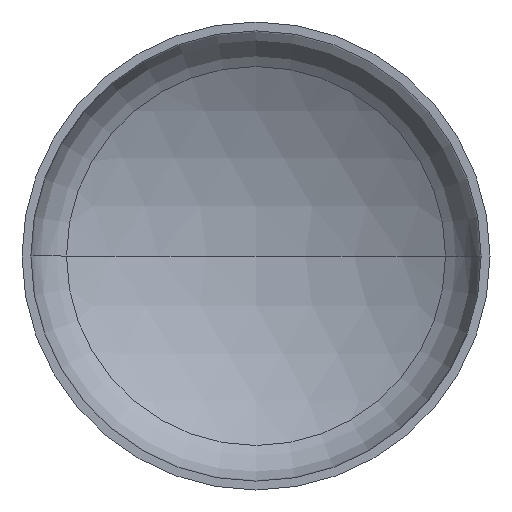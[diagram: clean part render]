
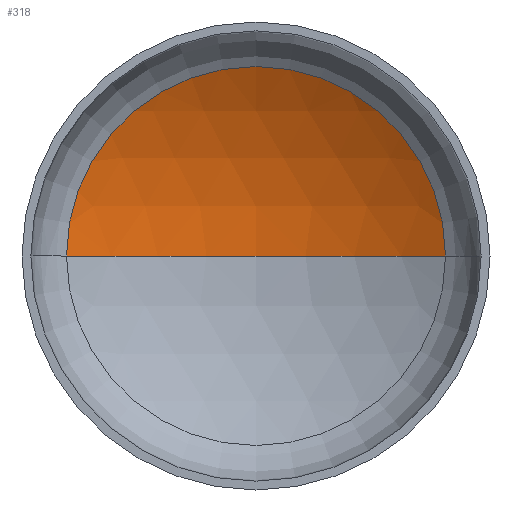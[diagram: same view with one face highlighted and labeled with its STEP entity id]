
A CAD part, front view. The second image highlights one B-rep face of the part: STEP entity #318.
In plain terms, the highlighted spherical face has radius 4800 mm.
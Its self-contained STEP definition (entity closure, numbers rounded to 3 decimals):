
#11 = AXIS2_PLACEMENT_3D ( 'NONE', #402, #377, #196 ) ;
#21 = DIRECTION ( 'NONE',  ( 1., 0., 0. ) ) ;
#25 = CARTESIAN_POINT ( 'NONE',  ( 0., 1532.829, 0. ) ) ;
#35 = CARTESIAN_POINT ( 'NONE',  ( 2429.11, 872.808, 0. ) ) ;
#48 = AXIS2_PLACEMENT_3D ( 'NONE', #395, #252, #21 ) ;
#49 = VERTEX_POINT ( 'NONE', #150 ) ;
#51 = AXIS2_PLACEMENT_3D ( 'NONE', #188, #343, #213 ) ;
#58 = AXIS2_PLACEMENT_3D ( 'NONE', #370, #231, #394 ) ;
#78 = VERTEX_POINT ( 'NONE', #35 ) ;
#91 = ORIENTED_EDGE ( 'NONE', *, *, #109, .T. ) ;
#103 = ORIENTED_EDGE ( 'NONE', *, *, #114, .T. ) ;
#109 = EDGE_CURVE ( 'NONE', #78, #49, #292, .T. ) ;
#114 = EDGE_CURVE ( 'NONE', #193, #78, #342, .T. ) ;
#115 = EDGE_LOOP ( 'NONE', ( #388, #103, #91 ) ) ;
#119 = EDGE_CURVE ( 'NONE', #193, #49, #410, .T. ) ;
#150 = CARTESIAN_POINT ( 'NONE',  ( -2429.11, 872.808, 0. ) ) ;
#188 = CARTESIAN_POINT ( 'NONE',  ( 0., -3267.171, 0. ) ) ;
#193 = VERTEX_POINT ( 'NONE', #25 ) ;
#196 = DIRECTION ( 'NONE',  ( -1., 0., 0. ) ) ;
#206 = SPHERICAL_SURFACE ( 'NONE', #11, 4800. ) ;
#213 = DIRECTION ( 'NONE',  ( -1., 0., 0. ) ) ;
#231 = DIRECTION ( 'NONE',  ( 0., -1., 0. ) ) ;
#252 = DIRECTION ( 'NONE',  ( 0., 0., 1. ) ) ;
#292 = CIRCLE ( 'NONE', #58, 2429.11 ) ;
#318 = ADVANCED_FACE ( 'NONE', ( #320 ), #206, .F. ) ;
#320 = FACE_OUTER_BOUND ( 'NONE', #115, .T. ) ;
#342 = CIRCLE ( 'NONE', #51, 4800. ) ;
#343 = DIRECTION ( 'NONE',  ( 0., 0., -1. ) ) ;
#370 = CARTESIAN_POINT ( 'NONE',  ( 0., 872.808, 0. ) ) ;
#377 = DIRECTION ( 'NONE',  ( 0., 0., -1. ) ) ;
#388 = ORIENTED_EDGE ( 'NONE', *, *, #119, .F. ) ;
#394 = DIRECTION ( 'NONE',  ( 1., 0., 0. ) ) ;
#395 = CARTESIAN_POINT ( 'NONE',  ( 0., -3267.171, 0. ) ) ;
#402 = CARTESIAN_POINT ( 'NONE',  ( 0., -3267.171, 0. ) ) ;
#410 = CIRCLE ( 'NONE', #48, 4800. ) ;
